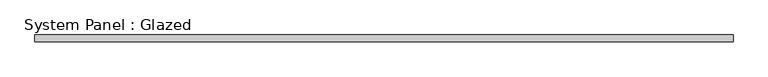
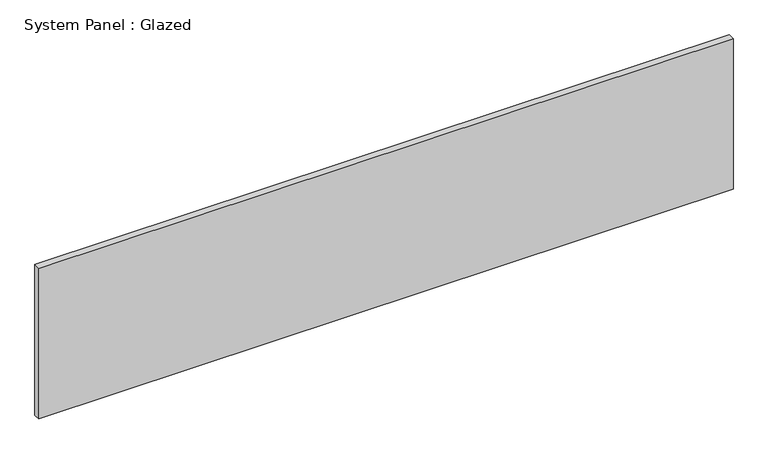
"""IFC4 building model written with IfcOpenShell, lengths in millimetres: plate geometry, System Panel : Glazed."""

from ifc_helpers import new_model, si_unit, origin, origin_with_axes, place, context, project, spatial, polyline, outline, extrude, source, transform, mapped, element, save


def system_panel_glazed_c1421171(model_context):
    return source(origin(), model_context, "Body", "SweptSolid", [
        extrude(outline(polyline([(1307.5, -49.5), (-1307.5, -49.5), (-1307.5, -24.5), (1307.5, -24.5), (1307.5, -49.5)])), origin_with_axes(), (0.0, 0.0, 1.0), 600.0),
    ])


if __name__ == "__main__":
    model = new_model("IFC4")
    model_context = context("Model", 3, world=origin())
    ifc_project = project(units=[si_unit("LENGTHUNIT", "METRE", prefix="MILLI")], contexts=[model_context])
    site = spatial("IfcSite", under=ifc_project)
    building = spatial("IfcBuilding", under=site)
    placement = place(None, origin())
    system_panel_glazed_shape = system_panel_glazed_c1421171(model_context)
    element("IfcPlate", 1, ObjectType="System Panel : Glazed", at=placement, inside=building, context=model_context, shape_type="MappedRepresentation", body=[
        mapped(system_panel_glazed_shape, transform((0.0, 0.0, 0.0), x_axis=(1.0, 0.0, 0.0), y_axis=(0.0, 1.0, 0.0), z_axis=(0.0, 0.0, 1.0))),
    ])
    save(model, "model.ifc")
